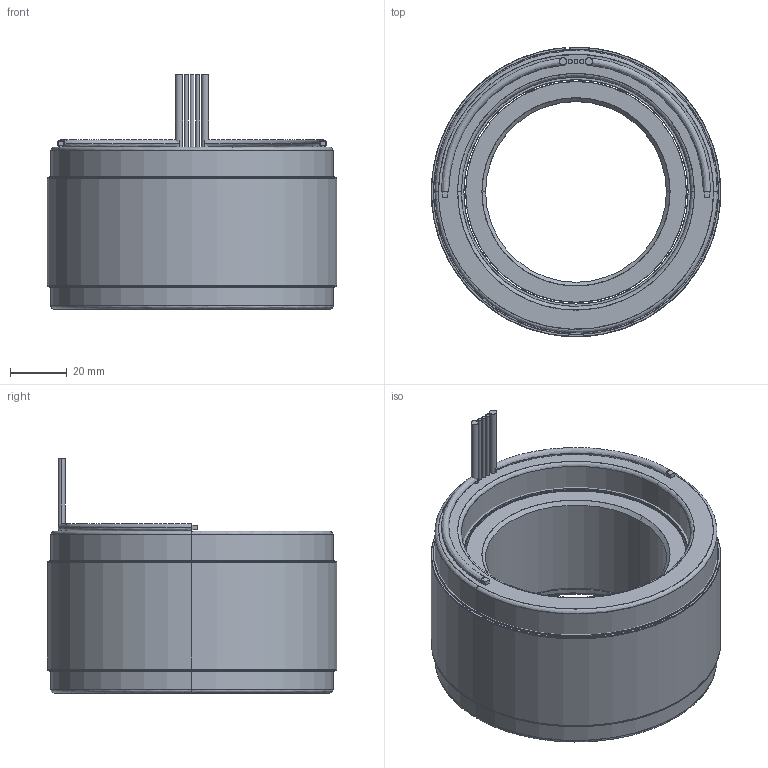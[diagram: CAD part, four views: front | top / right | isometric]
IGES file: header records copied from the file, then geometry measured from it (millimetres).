
Start section: SolidWorks IGES file using analytic representation for surfaces
Global section: file name: \\fs01.aveox.local\user documents\eng\My Documents\STANDARD STATOR ROTOR SETS\NEW DIRECT DRIVE MOTOR\4 OD 27S24P\6100339-04.IGS; native system: SolidWorks 2016; preprocessor: SolidWorks 2016; author: eng; date: 191023.141754; units: millimetre
Bounding box: 101.6 x 101.57 x 82.3 mm (x, y, z)
Surface area: 111879.5 mm2 (no closed solid volume)
Topology: 0 solids, 0 shells, 109 faces, 2502 edges, 2502 vertices
Faces by surface type: bspline 56, revolution 53
